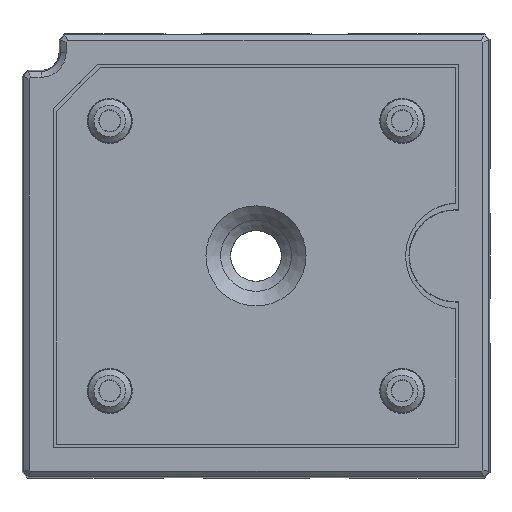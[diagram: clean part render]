
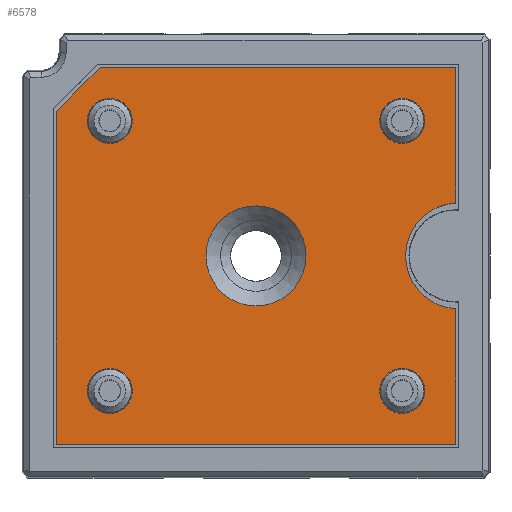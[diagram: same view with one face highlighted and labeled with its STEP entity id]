
A CAD part, top view. The second image highlights one B-rep face of the part: STEP entity #6578.
In plain terms, the highlighted planar face has unit normal (0, 0, 1).
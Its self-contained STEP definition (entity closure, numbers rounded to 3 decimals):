
#311=PLANE('',#7323);
#596=LINE('',#13410,#889);
#597=LINE('',#13413,#890);
#598=LINE('',#13415,#891);
#599=LINE('',#13416,#892);
#600=LINE('',#13418,#893);
#601=LINE('',#13420,#894);
#889=VECTOR('',#9032,1000.);
#890=VECTOR('',#9033,1000.);
#891=VECTOR('',#9034,1000.);
#892=VECTOR('',#9035,1000.);
#893=VECTOR('',#9036,1000.);
#894=VECTOR('',#9037,1000.);
#2985=ORIENTED_EDGE('',*,*,#3927,.T.);
#2986=ORIENTED_EDGE('',*,*,#3928,.T.);
#2987=ORIENTED_EDGE('',*,*,#3929,.T.);
#2988=ORIENTED_EDGE('',*,*,#3923,.T.);
#2989=ORIENTED_EDGE('',*,*,#3930,.T.);
#2990=ORIENTED_EDGE('',*,*,#3931,.T.);
#2991=ORIENTED_EDGE('',*,*,#3932,.T.);
#2992=ORIENTED_EDGE('',*,*,#3911,.T.);
#2993=ORIENTED_EDGE('',*,*,#3918,.F.);
#2994=ORIENTED_EDGE('',*,*,#3922,.F.);
#2995=ORIENTED_EDGE('',*,*,#3920,.F.);
#2996=ORIENTED_EDGE('',*,*,#3916,.F.);
#3911=EDGE_CURVE('',#4506,#4506,#4885,.T.);
#3916=EDGE_CURVE('',#4511,#4511,#4890,.T.);
#3918=EDGE_CURVE('',#4513,#4513,#4892,.T.);
#3920=EDGE_CURVE('',#4515,#4515,#4894,.T.);
#3922=EDGE_CURVE('',#4517,#4517,#4896,.T.);
#3923=EDGE_CURVE('',#4518,#4519,#4897,.T.);
#3927=EDGE_CURVE('',#4522,#4523,#596,.T.);
#3928=EDGE_CURVE('',#4523,#4524,#597,.T.);
#3929=EDGE_CURVE('',#4524,#4518,#598,.T.);
#3930=EDGE_CURVE('',#4519,#4525,#599,.T.);
#3931=EDGE_CURVE('',#4525,#4526,#600,.T.);
#3932=EDGE_CURVE('',#4526,#4522,#601,.T.);
#4506=VERTEX_POINT('',#13372);
#4511=VERTEX_POINT('',#13384);
#4513=VERTEX_POINT('',#13389);
#4515=VERTEX_POINT('',#13394);
#4517=VERTEX_POINT('',#13399);
#4518=VERTEX_POINT('',#13402);
#4519=VERTEX_POINT('',#13403);
#4522=VERTEX_POINT('',#13411);
#4523=VERTEX_POINT('',#13412);
#4524=VERTEX_POINT('',#13414);
#4525=VERTEX_POINT('',#13417);
#4526=VERTEX_POINT('',#13419);
#4885=CIRCLE('',#7303,4.45);
#4890=CIRCLE('',#7310,2.);
#4892=CIRCLE('',#7313,2.);
#4894=CIRCLE('',#7316,2.);
#4896=CIRCLE('',#7319,2.);
#4897=CIRCLE('',#7321,4.7);
#5456=EDGE_LOOP('',(#2985,#2986,#2987,#2988,#2989,#2990,#2991));
#5457=EDGE_LOOP('',(#2992));
#5458=EDGE_LOOP('',(#2993));
#5459=EDGE_LOOP('',(#2994));
#5460=EDGE_LOOP('',(#2995));
#5461=EDGE_LOOP('',(#2996));
#6033=FACE_BOUND('',#5456,.T.);
#6034=FACE_BOUND('',#5457,.T.);
#6035=FACE_BOUND('',#5458,.T.);
#6036=FACE_BOUND('',#5459,.T.);
#6037=FACE_BOUND('',#5460,.T.);
#6038=FACE_BOUND('',#5461,.T.);
#6578=ADVANCED_FACE('',(#6033,#6034,#6035,#6036,#6037,#6038),#311,.T.);
#7303=AXIS2_PLACEMENT_3D('',#13371,#8988,#8989);
#7310=AXIS2_PLACEMENT_3D('',#13383,#9002,#9003);
#7313=AXIS2_PLACEMENT_3D('',#13388,#9008,#9009);
#7316=AXIS2_PLACEMENT_3D('',#13393,#9014,#9015);
#7319=AXIS2_PLACEMENT_3D('',#13398,#9020,#9021);
#7321=AXIS2_PLACEMENT_3D('',#13401,#9024,#9025);
#7323=AXIS2_PLACEMENT_3D('',#13409,#9030,#9031);
#8988=DIRECTION('',(0.,0.,-1.));
#8989=DIRECTION('',(-1.,0.,0.));
#9002=DIRECTION('',(0.,0.,1.));
#9003=DIRECTION('',(1.,0.,0.));
#9008=DIRECTION('',(0.,0.,1.));
#9009=DIRECTION('',(1.,0.,0.));
#9014=DIRECTION('',(0.,0.,1.));
#9015=DIRECTION('',(1.,0.,0.));
#9020=DIRECTION('',(0.,0.,1.));
#9021=DIRECTION('',(1.,0.,0.));
#9024=DIRECTION('',(0.,0.,-1.));
#9025=DIRECTION('',(1.,0.,0.));
#9030=DIRECTION('',(0.,0.,1.));
#9031=DIRECTION('',(1.,0.,0.));
#9032=DIRECTION('',(0.,-1.,0.));
#9033=DIRECTION('',(1.,0.,0.));
#9034=DIRECTION('',(0.,1.,0.));
#9035=DIRECTION('',(0.,1.,0.));
#9036=DIRECTION('',(-1.,0.,0.));
#9037=DIRECTION('',(-0.707,-0.707,0.));
#13371=CARTESIAN_POINT('',(0.,0.,2.));
#13372=CARTESIAN_POINT('',(-4.45,0.,2.));
#13383=CARTESIAN_POINT('',(-13.,-12.,2.));
#13384=CARTESIAN_POINT('',(-11.,-12.,2.));
#13388=CARTESIAN_POINT('',(13.,-12.,2.));
#13389=CARTESIAN_POINT('',(15.,-12.,2.));
#13393=CARTESIAN_POINT('',(13.,12.,2.));
#13394=CARTESIAN_POINT('',(15.,12.,2.));
#13398=CARTESIAN_POINT('',(-13.,12.,2.));
#13399=CARTESIAN_POINT('',(-11.,12.,2.));
#13401=CARTESIAN_POINT('',(18.,0.,2.));
#13402=CARTESIAN_POINT('',(17.75,-4.693,2.));
#13403=CARTESIAN_POINT('',(17.75,4.693,2.));
#13409=CARTESIAN_POINT('',(18.,0.,2.));
#13410=CARTESIAN_POINT('',(-17.75,-16.75,2.));
#13411=CARTESIAN_POINT('',(-17.75,12.85,2.));
#13412=CARTESIAN_POINT('',(-17.75,-16.75,2.));
#13413=CARTESIAN_POINT('',(-17.75,-16.75,2.));
#13414=CARTESIAN_POINT('',(17.75,-16.75,2.));
#13415=CARTESIAN_POINT('',(17.75,-16.75,2.));
#13416=CARTESIAN_POINT('',(17.75,4.693,2.));
#13417=CARTESIAN_POINT('',(17.75,16.75,2.));
#13418=CARTESIAN_POINT('',(-13.85,16.75,2.));
#13419=CARTESIAN_POINT('',(-13.85,16.75,2.));
#13420=CARTESIAN_POINT('',(-17.75,12.85,2.));
